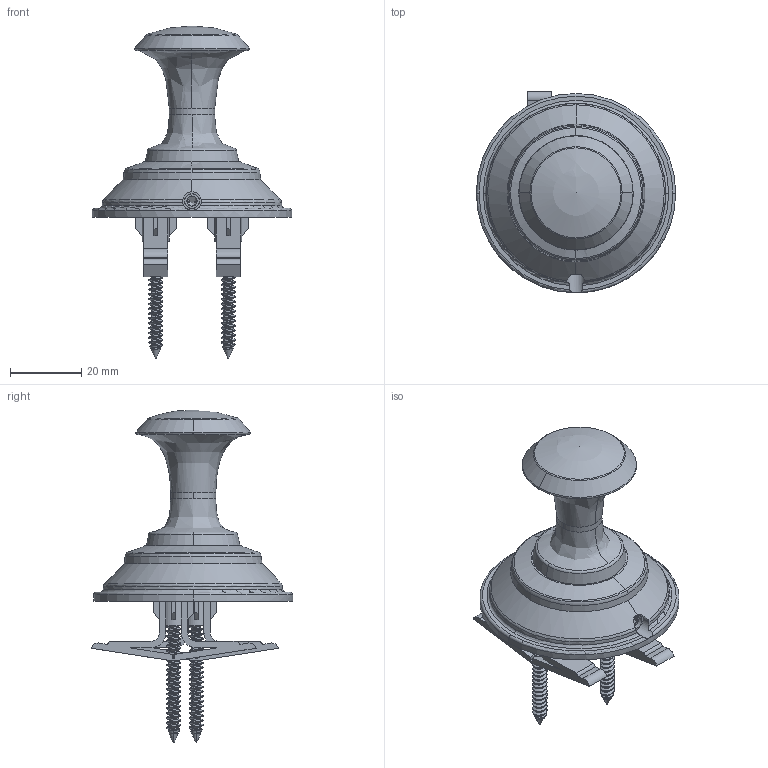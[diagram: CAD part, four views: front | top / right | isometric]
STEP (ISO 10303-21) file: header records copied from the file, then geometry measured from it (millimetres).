
FILE_DESCRIPTION (( 'STEP AP214' ), '1' );
FILE_NAME ('583RH.STEP', '2025-01-06T01:16:22', ( '' ), ( '' ), 'SwSTEP 2.0', 'SolidWorks 2023', '' );
FILE_SCHEMA (( 'AUTOMOTIVE_DESIGN' ));
Length unit declared in the file: inch
Products named in the file (1): 583RH
Bounding box: 55.88 x 56.54 x 93.09 mm (x, y, z)
Surface area: 16719.7 mm2 (no closed solid volume)
Topology: 0 solids, 10 shells, 383 faces, 1188 edges, 798 vertices
Faces by surface type: cylinder 136, plane 121, bspline 59, cone 33, torus 33, sphere 1
Entity records: 36398 total; most frequent: CARTESIAN_POINT 26906, ORIENTED_EDGE 2168, DIRECTION 1584, EDGE_CURVE 1183, VERTEX_POINT 796, AXIS2_PLACEMENT_3D 591, B_SPLINE_CURVE_WITH_KNOTS 515, VECTOR 402
